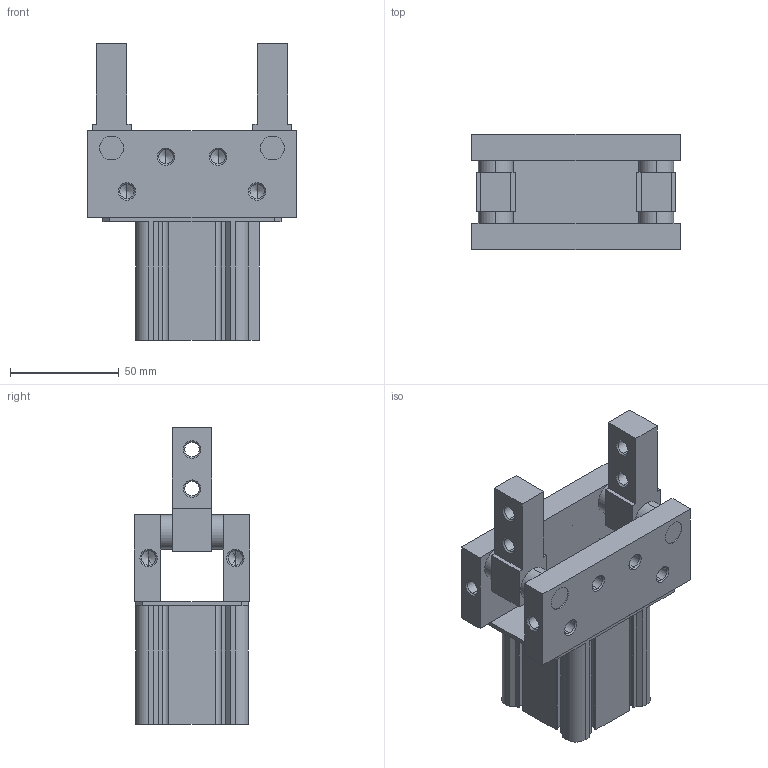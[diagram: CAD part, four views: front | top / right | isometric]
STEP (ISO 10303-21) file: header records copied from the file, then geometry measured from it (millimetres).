
FILE_DESCRIPTION (( 'STEP AP203' ), '1' );
FILE_NAME ('CHT2-40D.STEP', '2020-03-03T19:28:59', ( '' ), ( '' ), 'SwSTEP 2.0', 'SolidWorks 2019', '' );
FILE_SCHEMA (( 'CONFIG_CONTROL_DESIGN' ));
Length unit declared in the file: millimetre
Products named in the file (1): CHT2-40D
Bounding box: 96 x 53 x 136.5 mm (x, y, z)
Volume: 257623 mm3; surface area: 59244.2 mm2
Topology: 3 solids, 3 shells, 264 faces, 674 edges, 398 vertices
Faces by surface type: plane 94, cone 88, cylinder 82
Entity records: 7747 total; most frequent: DIRECTION 1384, CARTESIAN_POINT 1301, ORIENTED_EDGE 1276, EDGE_CURVE 638, AXIS2_PLACEMENT_3D 481, LINE 422, VECTOR 422, VERTEX_POINT 398
